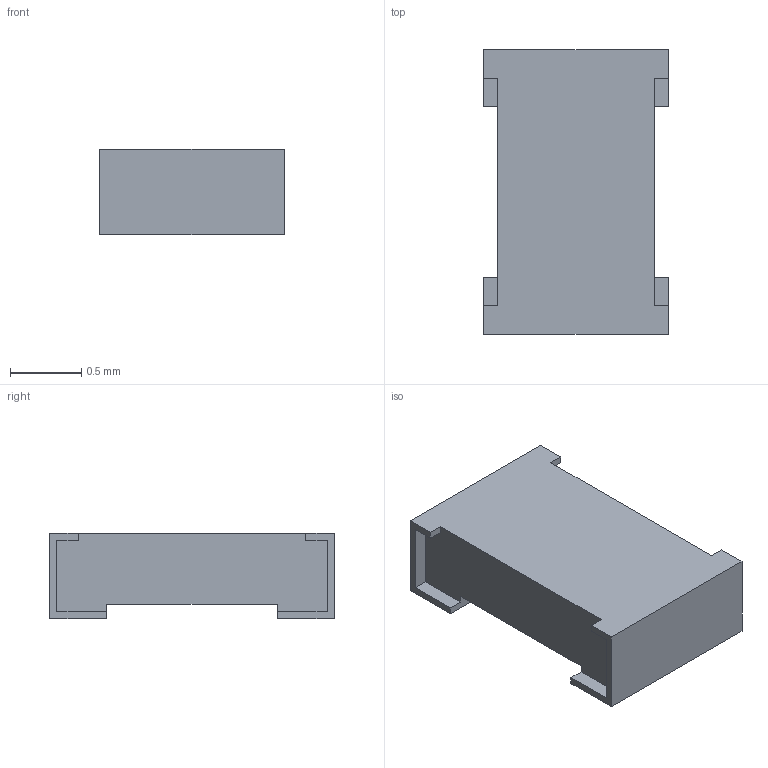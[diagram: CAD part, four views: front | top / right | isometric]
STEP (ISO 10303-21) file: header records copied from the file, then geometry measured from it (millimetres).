
FILE_DESCRIPTION(/* description */ ('STEP AP242 Edition 2','CAx-IF Rec.Pracs.---Representation and Presentation of Product Manufacturing Information (PMI)---4.0---2014-10-13','CAx-IF Rec.Pracs.---3D Tessellated Geometry---0.4---2014-09-14','2;1','CAx-IF Rec.Pracs.---User Defined Attributes---1.5---2016-08-15'),/* implementation_level */ '2;1');
FILE_NAME(/* name */ 'Assembly 1 - R0805~R0805_L2.0-W1.3-H0.6~nxQB_1',/* time_stamp */ '2026-04-02T09:55:17Z',/* author */ (''),/* organization */ (''),/* preprocessor_version */ 'ST-DEVELOPER v20',/* originating_system */ 'ONSHAPE BY PTC INC, 1.212',/* authorisation */ ' ');
FILE_SCHEMA (('AP242_MANAGED_MODEL_BASED_3D_ENGINEERING_MIM_LF { 1 0 10303 442 3 1 4 }'));
Length unit declared in the file: metre
Products named in the file (1): R0805~R0805_L2.0-W1.3-H0.6~nxQB_1
Bounding box: 1.3 x 2 x 0.6 mm (x, y, z)
Volume: 1.2 mm3; surface area: 9 mm2
Topology: 1 solids, 1 shells, 30 faces, 84 edges, 56 vertices
Faces by surface type: plane 30
Entity records: 1055 total; most frequent: CARTESIAN_POINT 171, ORIENTED_EDGE 168, DIRECTION 146, EDGE_CURVE 84, LINE 84, VECTOR 84, VERTEX_POINT 56, AXIS2_PLACEMENT_3D 31
